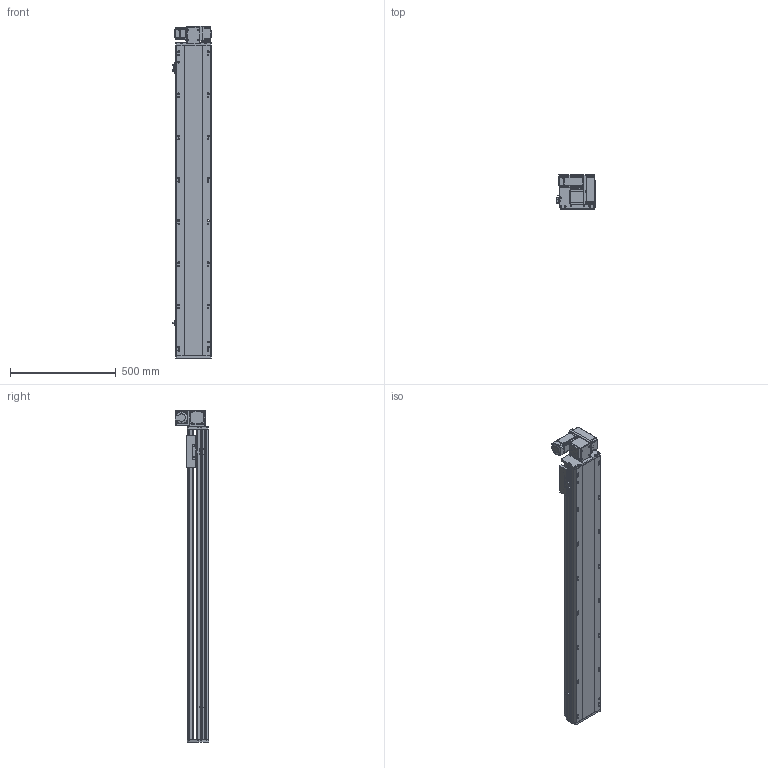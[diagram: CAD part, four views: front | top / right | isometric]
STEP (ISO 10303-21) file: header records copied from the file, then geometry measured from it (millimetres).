
FILE_DESCRIPTION (( 'STEP AP214' ), '1' );
FILE_NAME ('RTB17S-XX-1200-RW-M40-C4.STEP', '2025-12-11T09:01:26', ( '' ), ( '' ), 'SwSTEP 2.0', 'SolidWorks 2018', '' );
FILE_SCHEMA (( 'AUTOMOTIVE_DESIGN' ));
Length unit declared in the file: millimetre
Products named in the file (14): RTB14-L-018P^RTB17S-RW-々湍釱蚾饜-400W_RTB17S-XX-XX-RW-M40-C4; RTB17S-L-007奻裔^RTB17S-XX-XX-RW-M40-C4; RTB17S-L-001耜醱啣^RTB17S-XX-XX-RW-M40-C4; RTB14-L-005P--轴承塑胶压盖^RTB17S-RW-皮带座装配-400W_RTB17S-XX-XX-RW-M40-C4; RTB14-L-017P^RTB17S-RW-々湍釱蚾饜-400W_RTB17S-XX-XX-RW-M40-C4; RTB17S-RW-々湍釱蚾饜-400W^RTB17S-XX-XX-RW-M40-C4; 400W侜督萇儂^RTB17S-XX-XX-RW-M40-C4; OMRON EE-SX672 传感器^RTB17S-XX-XX-RW-M40-C4; RTH13-BL-012覜茼え俋离^RTB17S-XX-XX-RW-M40-C4; RMP17S-L-014-T20--々湍釱^RTB17S-RW-々湍釱蚾饜-400W_RTB17S-XX-XX-RW-M40-C4; RTB17-R-011菁釱^RTB17S-XX-XX-RW-M40-C4; RTB14-L-008-M20--萇儂啣^RTB17S-RW-々湍釱蚾饜-400W_RTB17S-XX-XX-RW-M40-C4; RTB17S-L-004佪裝蹟譫蟀諉釱^RTB17S-XX-XX-RW-M40-C4; RTB17S-XX-1200-RW-M40-C4
Assembly tree (16 placements, depth 3):
  RTB17S-XX-1200-RW-M40-C4
    RTB17-R-011菁釱^RTB17S-XX-XX-RW-M40-C4
    RTB17S-L-007奻裔^RTB17S-XX-XX-RW-M40-C4
    OMRON EE-SX672 传感器^RTB17S-XX-XX-RW-M40-C4  x3
    RTB17S-L-001耜醱啣^RTB17S-XX-XX-RW-M40-C4
    400W侜督萇儂^RTB17S-XX-XX-RW-M40-C4
    RTB17S-L-004佪裝蹟譫蟀諉釱^RTB17S-XX-XX-RW-M40-C4
    RTH13-BL-012覜茼え俋离^RTB17S-XX-XX-RW-M40-C4
    RTB17S-RW-々湍釱蚾饜-400W^RTB17S-XX-XX-RW-M40-C4
      RMP17S-L-014-T20--々湍釱^RTB17S-RW-々湍釱蚾饜-400W_RTB17S-XX-XX-RW-M40-C4
      RTB14-L-005P--轴承塑胶压盖^RTB17S-RW-皮带座装配-400W_RTB17S-XX-XX-RW-M40-C4
      RTB14-L-008-M20--萇儂啣^RTB17S-RW-々湍釱蚾饜-400W_RTB17S-XX-XX-RW-M40-C4
      RTB14-L-017P^RTB17S-RW-々湍釱蚾饜-400W_RTB17S-XX-XX-RW-M40-C4  x2
      RTB14-L-018P^RTB17S-RW-々湍釱蚾饜-400W_RTB17S-XX-XX-RW-M40-C4
Bounding box: 183.5 x 160.5 x 1572.5 mm (x, y, z)
Volume: 14007968.5 mm3; surface area: 1675023.8 mm2
Topology: 15 solids, 15 shells, 2221 faces, 6141 edges, 4005 vertices
Faces by surface type: plane 1070, cylinder 703, bspline 301, cone 139, torus 8
Entity records: 63401 total; most frequent: CARTESIAN_POINT 17746, ORIENTED_EDGE 9126, DIRECTION 8486, EDGE_CURVE 4563, VERTEX_POINT 2993, AXIS2_PLACEMENT_3D 2923, VECTOR 2640, LINE 2640
